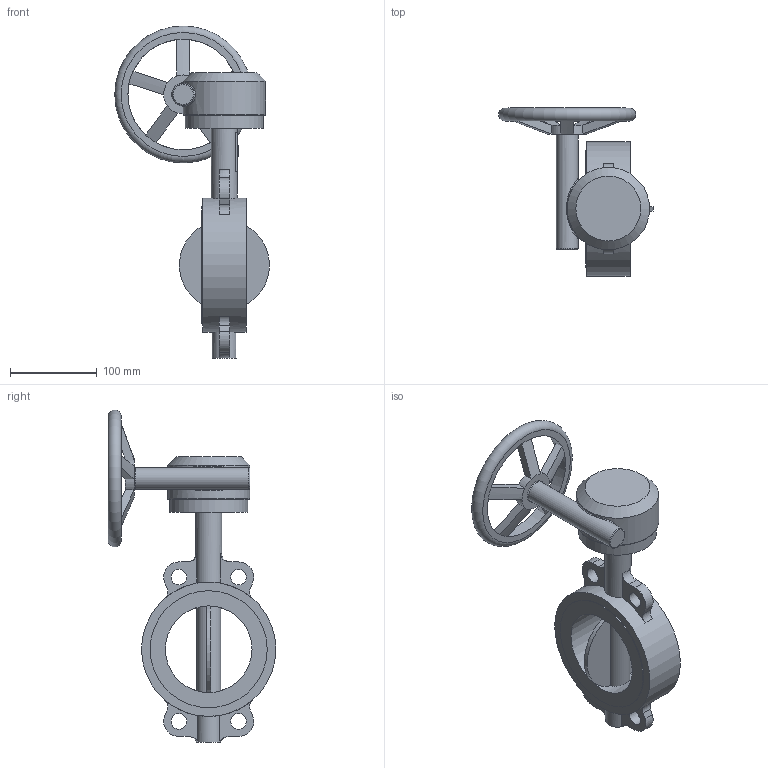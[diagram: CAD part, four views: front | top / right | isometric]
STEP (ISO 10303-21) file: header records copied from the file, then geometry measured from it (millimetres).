
FILE_DESCRIPTION(('STEP AP203'), '1');
FILE_NAME('青蜮铕 017W.Y_DN100_疱潴牝铕', '', ('UNSPECIFIED'), ('UNSPECIFIED'), 'ASCON STEP Converter 1.6', 'ASCON Math Kernel', '');
FILE_SCHEMA(('CONFIG_CONTROL_DESIGN'));
Length unit declared in the file: millimetre
Bounding box: 178.28 x 193.5 x 382.98 mm (x, y, z)
Volume: 1381934.7 mm3; surface area: 181139.8 mm2
Topology: 1 solids, 1 shells, 140 faces, 353 edges, 222 vertices
Faces by surface type: plane 64, cylinder 47, cone 19, torus 8, bspline 2
Full cylindrical faces by diameter (mm): 8.376 x4, 10 x4, 18 x4, 25 x1, 30 x1, 90 x1, 95 x1, 100 x1, 127.563 x1, 135 x2, 155 x1
Entity records: 7297 total; most frequent: CARTESIAN_POINT 2882, DIRECTION 690, ORIENTED_EDGE 626, EDGE_CURVE 313, AXIS2_PLACEMENT_3D 284, VERTEX_POINT 218, EDGE_LOOP 205, CIRCLE 145
